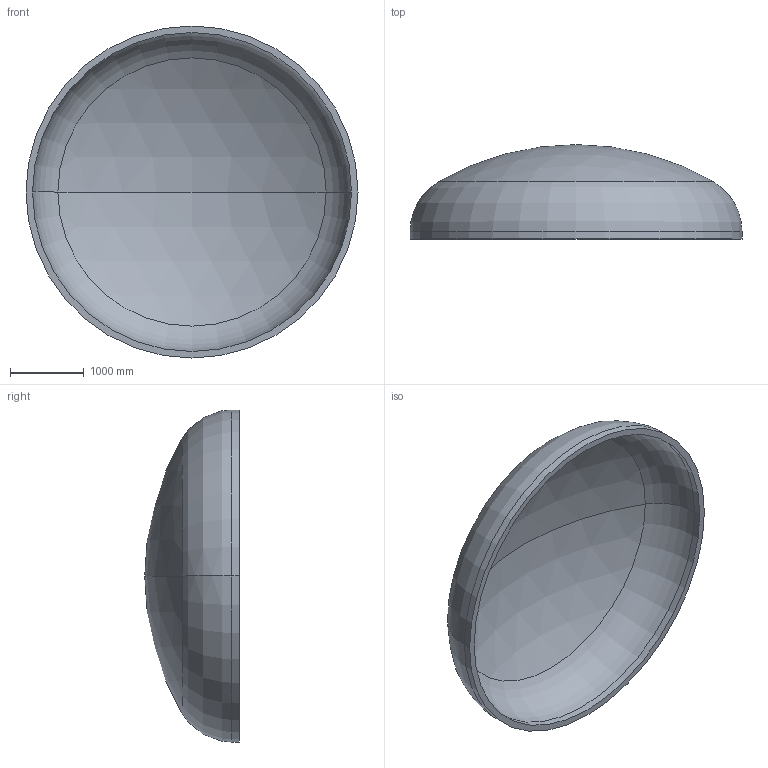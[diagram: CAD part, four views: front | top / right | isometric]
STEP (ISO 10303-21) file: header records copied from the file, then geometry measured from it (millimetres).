
FILE_DESCRIPTION (( 'STEP AP203' ), '1' );
FILE_NAME ('DIN 28013 Korbbogenform_-_Boden DIN 28013 - 4500 x 100 - I - s=88.step', '2016-07-01T23:46:38', ( '' ), ( '' ), 'SwSTEP 2.0', 'SolidWorks 2013', '' );
FILE_SCHEMA (( 'CONFIG_CONTROL_DESIGN' ));
Length unit declared in the file: millimetre
Products named in the file (1): DIN 28013 Korbbogenform_-_Boden DIN 28013 - 4500 x 100 - I - s=88
Bounding box: 4500 x 1280.62 x 4500 mm (x, y, z)
Volume: 2012171515.4 mm3; surface area: 46967115.6 mm2
Topology: 1 solids, 1 shells, 13 faces, 24 edges, 14 vertices
Faces by surface type: torus 4, cylinder 4, sphere 4, plane 1
Entity records: 407 total; most frequent: DIRECTION 72, CARTESIAN_POINT 52, ORIENTED_EDGE 48, AXIS2_PLACEMENT_3D 34, EDGE_CURVE 24, CIRCLE 20, VERTEX_POINT 14, EDGE_LOOP 14
